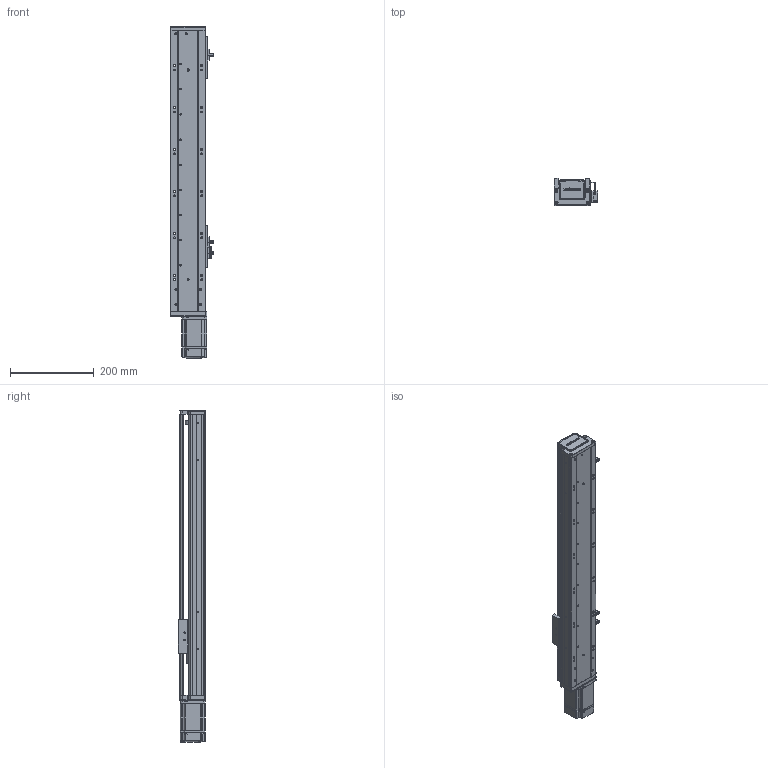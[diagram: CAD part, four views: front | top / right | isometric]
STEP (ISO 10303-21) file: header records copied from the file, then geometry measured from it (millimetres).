
FILE_DESCRIPTION (( 'STEP AP203' ), '1' );
FILE_NAME ('RY80-L1620-300-MK.SLDASM_450.step', '2021-02-20T02:33:13', ( '' ), ( '' ), 'SwSTEP 2.0', 'SolidWorks 2012', '' );
FILE_SCHEMA (( 'CONFIG_CONTROL_DESIGN' ));
Length unit declared in the file: millimetre
Products named in the file (14): RY80前盖板(100W电机 PCD46 M4); RY80-L1620-300-MK.SLDASM_450; 覜茼ん672; 滅袉蝶18-24; RY80綴裔啣; RY80俋离覜茼え; 侂狟200W萇儂; 672嫖萇羲壽假蚾釱; 滅袉蝶18-10; RY80前盖板(200W电机)M4; RY80-300-MK倰第奻裔啣_450; 1; RY80臏賑輸; RY80-300-MK倰第菁釱_450
Assembly tree (16 placements, depth 3):
  RY80-L1620-300-MK.SLDASM_450
    RY80-300-MK倰第菁釱_450
    RY80臏賑輸
    RY80-300-MK倰第奻裔啣_450
    RY80前盖板(200W电机)M4
    侂狟200W萇儂
      1
    滅袉蝶18-10
    672嫖萇羲壽假蚾釱  x2
    覜茼ん672  x3
    RY80俋离覜茼え
    滅袉蝶18-24
    RY80綴裔啣
    RY80前盖板(100W电机 PCD46 M4)
Bounding box: 103.7 x 65 x 792 mm (x, y, z)
Volume: 1440751.7 mm3; surface area: 523940.3 mm2
Topology: 15 solids, 15 shells, 2014 faces, 5550 edges, 3613 vertices
Faces by surface type: plane 1109, cylinder 723, cone 128, bspline 54
Entity records: 63415 total; most frequent: CARTESIAN_POINT 15883, ORIENTED_EDGE 9840, DIRECTION 9201, EDGE_CURVE 4920, VERTEX_POINT 3229, AXIS2_PLACEMENT_3D 3077, LINE 3047, VECTOR 3047
